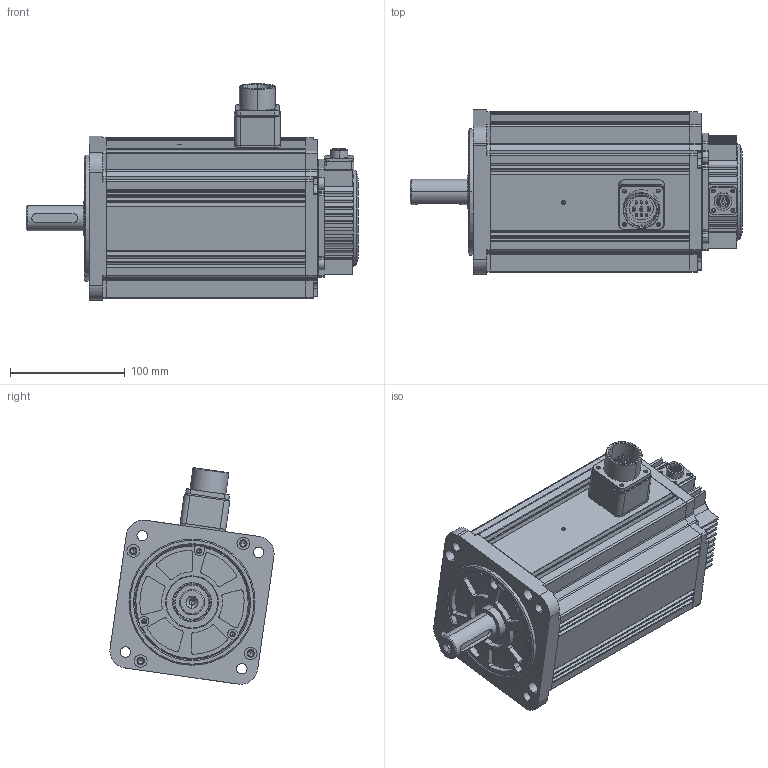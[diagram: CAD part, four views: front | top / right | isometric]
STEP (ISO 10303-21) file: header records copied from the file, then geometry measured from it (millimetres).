
FILE_DESCRIPTION (( 'STEP AP203' ), '1' );
FILE_NAME ('UMM-0020EAB-B2 UMM-0020CAB-B2.STEP', '2019-04-18T06:53:03', ( '' ), ( '' ), 'SwSTEP 2.0', 'SolidWorks 2017', '' );
FILE_SCHEMA (( 'CONFIG_CONTROL_DESIGN' ));
Length unit declared in the file: millimetre
Products named in the file (1): UMM-0020EAB-B2 UMM-0020CAB-B2
Bounding box: 289.5 x 143.17 x 188.87 mm (x, y, z)
Volume: 1231857.7 mm3; surface area: 422238.4 mm2
Topology: 12 solids, 12 shells, 1465 faces, 4139 edges, 2662 vertices
Faces by surface type: cylinder 668, plane 513, bspline 161, cone 122, torus 1
Entity records: 55346 total; most frequent: CARTESIAN_POINT 17636, ORIENTED_EDGE 8050, DIRECTION 7922, EDGE_CURVE 4025, AXIS2_PLACEMENT_3D 3013, VERTEX_POINT 2662, VECTOR 1896, LINE 1896
